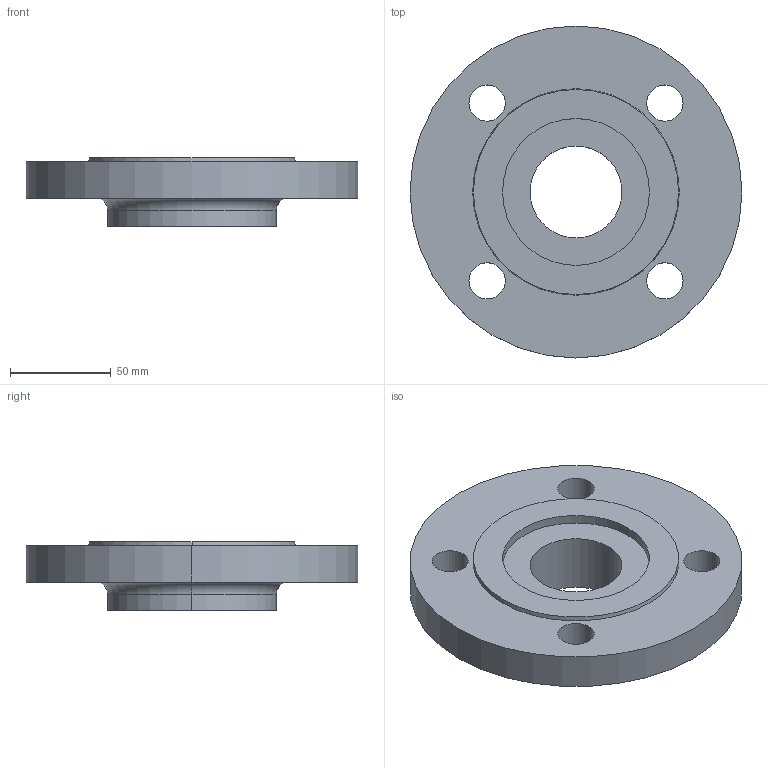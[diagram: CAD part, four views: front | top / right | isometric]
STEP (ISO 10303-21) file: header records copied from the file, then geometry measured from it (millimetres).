
FILE_DESCRIPTION (( 'STEP AP214' ), '1' );
FILE_NAME ('PN40 DN50 Type 13 - Type G Face.STEP', '2018-12-30T04:30:01', ( '' ), ( '' ), 'SwSTEP 2.0', 'SolidWorks 2019', '' );
FILE_SCHEMA (( 'AUTOMOTIVE_DESIGN' ));
Length unit declared in the file: millimetre
Products named in the file (1): PN40 DN50 Type 13 - Type G Face
Bounding box: 165 x 165 x 34 mm (x, y, z)
Volume: 395547.5 mm3; surface area: 59690.1 mm2
Topology: 1 solids, 1 shells, 25 faces, 58 edges, 38 vertices
Faces by surface type: cylinder 16, plane 5, torus 2, cone 2
Entity records: 790 total; most frequent: DIRECTION 150, CARTESIAN_POINT 122, ORIENTED_EDGE 116, AXIS2_PLACEMENT_3D 66, EDGE_CURVE 58, CIRCLE 40, VERTEX_POINT 38, EDGE_LOOP 38
